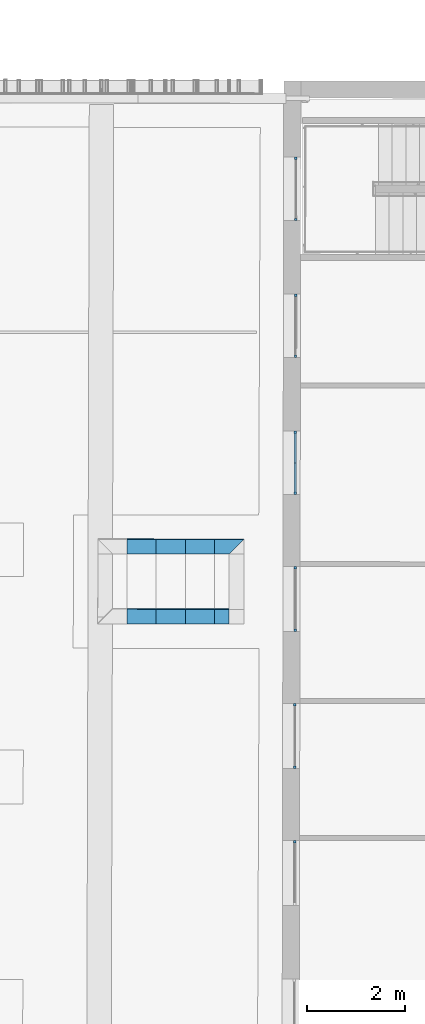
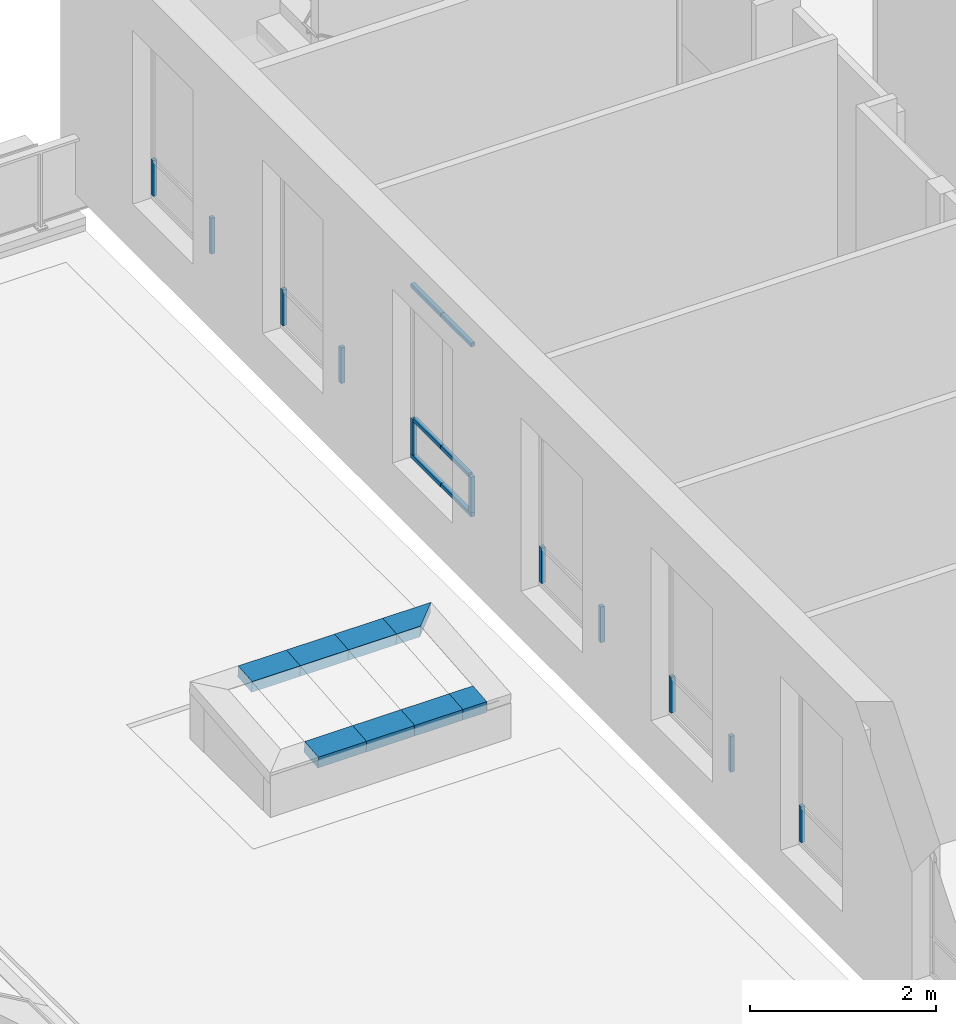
# One storey, part 30 of 101: 25 members, 7 elements without a shape of their own.
"""IFC2X3 building model written with IfcOpenShell, lengths in metres."""

from ifc_helpers import new_model, entity, si_unit, converted_unit, derived_unit, direction, frame, frame_2d, origin, origin_2d_with_axis, place, context, subcontext, project, spatial, polyline, rectangle, outline, extrude, source, transform, mapped, material, type_object, type_shapes, element, aggregate, save


model = new_model("IFC2X3")

# Units and contexts
model_context = context("Model", 3, precision=1e-05, world=origin(), true_north=direction((6.123233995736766e-17, 1.0)))
body_context = subcontext(model_context, "Body", "Model", "MODEL_VIEW")
ifc_project = project(units=[si_unit("LENGTHUNIT", "METRE"), si_unit("AREAUNIT", "SQUARE_METRE"), converted_unit("PLANEANGLEUNIT", "DEGREE", entity("IfcPlaneAngleMeasure", 0.017453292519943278), si_unit("PLANEANGLEUNIT", "RADIAN"), dimensions=[0, 0, 0, 0, 0, 0, 0]), derived_unit("THERMALTRANSMITTANCEUNIT", [(si_unit("MASSUNIT", "GRAM", prefix="KILO"), 1), (si_unit("THERMODYNAMICTEMPERATUREUNIT", "KELVIN"), -1), (si_unit("TIMEUNIT", "SECOND"), -3)])], contexts=[model_context])

# Site, building, storey
site_placement = place(None, frame((1253.6752467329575, 2072.143113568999, 91.49999999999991), z_axis=(0.0, 0.0, 1.0), x_axis=(0.7237211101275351, 0.6900925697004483, 0.0)))
site = spatial("IfcSite", under=ifc_project, at=site_placement, Name="Surface", CompositionType="ELEMENT")
building_placement = place(site_placement, origin())
building = spatial("IfcBuilding", under=site, at=building_placement, CompositionType="ELEMENT")
storey_placement = place(building_placement, origin())
storey = spatial("IfcBuildingStorey", under=building, at=storey_placement, Name="0- Rdc", CompositionType="ELEMENT", Elevation=-5.764692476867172e-13)

# Curtain wall, member
curtain_wall_type_1 = type_object("IfcCurtainWallType", Name="Mur-rideau:Menuiserie Ext 1F+1OB VERTIC", PredefinedType="NOTDEFINED")
curtain_wall_1_placement = place(storey_placement, origin())
curtain_wall_1 = element("IfcCurtainWall", 1, at=curtain_wall_1_placement, inside=storey, type_object=curtain_wall_type_1, Name="Mur-rideau:Menuiserie Ext 1F+1OB VERTIC", ObjectType="Mur-rideau:Menuiserie Ext 1F+1OB VERTIC")
ifc_material_1 = material(Name="OMD_Aluminium Men Ext")
member_type_1 = type_object("IfcMemberType", Name="Meneau rectangulaire:50x50", PredefinedType="MULLION", material=ifc_material_1)
shared_shape_1 = source(origin(), body_context, "Body", "SweptSolid", [
    extrude(rectangle(XDim=0.05, YDim=0.049999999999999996, at=origin_2d_with_axis()), frame((-0.025, 0.0, -0.4699999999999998), z_axis=(0.0, 0.0, 1.0), x_axis=(-1.0, 0.0, 0.0)), (0.0, 0.0, 1.0), 0.4699999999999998),
])
type_shapes(member_type_1, [shared_shape_1])
member_1_placement = place(curtain_wall_1_placement, frame((190.7317655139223, 2.1602019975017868, 0.6699999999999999), z_axis=(0.0, 0.0, -1.0), x_axis=(0.6913353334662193, 0.7225340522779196, 0.0)))
member_1 = element("IfcMember", 2, at=member_1_placement, type_object=member_type_1, material=ifc_material_1, Name="Meneau rectangulaire:50x50", ObjectType="Meneau rectangulaire:50x50", context=body_context, shape_type="MappedRepresentation", body=[
    mapped(shared_shape_1, transform((0.0, 0.0, 0.0), scale=1.0)),
])

curtain_wall_2_placement = place(storey_placement, origin())
curtain_wall_2 = element("IfcCurtainWall", 3, at=curtain_wall_2_placement, inside=storey, type_object=curtain_wall_type_1, Name="Mur-rideau:Menuiserie Ext 1F+1OB VERTIC", ObjectType="Mur-rideau:Menuiserie Ext 1F+1OB VERTIC")
member_2_placement = place(curtain_wall_2_placement, frame((188.79623681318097, 0.13732637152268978, 0.6699999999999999), z_axis=(0.0, 0.0, -1.0), x_axis=(0.6913353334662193, 0.7225340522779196, 0.0)))
member_2 = element("IfcMember", 4, at=member_2_placement, type_object=member_type_1, material=ifc_material_1, Name="Meneau rectangulaire:50x50", ObjectType="Meneau rectangulaire:50x50", context=body_context, shape_type="MappedRepresentation", body=[
    mapped(shared_shape_1, transform((0.0, 0.0, 0.0), scale=1.0)),
])

curtain_wall_3_placement = place(storey_placement, origin())
curtain_wall_3 = element("IfcCurtainWall", 5, at=curtain_wall_3_placement, inside=storey, type_object=curtain_wall_type_1, Name="Mur-rideau:Menuiserie Ext 1F+1OB VERTIC", ObjectType="Mur-rideau:Menuiserie Ext 1F+1OB VERTIC")
member_3_placement = place(curtain_wall_3_placement, frame((186.86049787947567, -1.8857689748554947, 0.6699999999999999), z_axis=(0.0, 0.0, -1.0), x_axis=(0.6913353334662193, 0.7225340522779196, 0.0)))
member_3 = element("IfcMember", 6, at=member_3_placement, type_object=member_type_1, material=ifc_material_1, Name="Meneau rectangulaire:50x50", ObjectType="Meneau rectangulaire:50x50", context=body_context, shape_type="MappedRepresentation", body=[
    mapped(shared_shape_1, transform((0.0, 0.0, 0.0), scale=1.0)),
])

curtain_wall_4_placement = place(storey_placement, origin())
curtain_wall_4 = element("IfcCurtainWall", 7, at=curtain_wall_4_placement, inside=storey, type_object=curtain_wall_type_1, Name="Mur-rideau:Menuiserie Ext 1F+1OB VERTIC", ObjectType="Mur-rideau:Menuiserie Ext 1F+1OB VERTIC")
member_4_placement = place(curtain_wall_4_placement, frame((184.9454626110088, -3.8872263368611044, 0.6699999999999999), z_axis=(0.0, 0.0, -1.0), x_axis=(0.6913353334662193, 0.7225340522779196, 0.0)))
member_4 = element("IfcMember", 8, at=member_4_placement, type_object=member_type_1, material=ifc_material_1, Name="Meneau rectangulaire:50x50", ObjectType="Meneau rectangulaire:50x50", context=body_context, shape_type="MappedRepresentation", body=[
    mapped(shared_shape_1, transform((0.0, 0.0, 0.0), scale=1.0)),
])

curtain_wall_5_placement = place(storey_placement, origin())
curtain_wall_5 = element("IfcCurtainWall", 9, at=curtain_wall_5_placement, inside=storey, type_object=curtain_wall_type_1, Name="Mur-rideau:Menuiserie Ext 1F+1OB VERTIC", ObjectType="Mur-rideau:Menuiserie Ext 1F+1OB VERTIC")
member_5_placement = place(curtain_wall_5_placement, frame((183.00972344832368, -5.910321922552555, 0.6699999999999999), z_axis=(0.0, 0.0, -1.0), x_axis=(0.6913353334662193, 0.7225340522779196, 0.0)))
member_5 = element("IfcMember", 10, at=member_5_placement, type_object=member_type_1, material=ifc_material_1, Name="Meneau rectangulaire:50x50", ObjectType="Meneau rectangulaire:50x50", context=body_context, shape_type="MappedRepresentation", body=[
    mapped(shared_shape_1, transform((0.0, 0.0, 0.0), scale=1.0)),
])

curtain_wall_6_placement = place(storey_placement, origin())
curtain_wall_6 = element("IfcCurtainWall", 11, at=curtain_wall_6_placement, inside=storey, type_object=curtain_wall_type_1, Name="Mur-rideau:Menuiserie Ext 1F+1OB VERTIC", ObjectType="Mur-rideau:Menuiserie Ext 1F+1OB VERTIC")
member_6_placement = place(curtain_wall_6_placement, frame((181.07398428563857, -7.933417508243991, 0.6699999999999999), z_axis=(0.0, 0.0, -1.0), x_axis=(0.6913353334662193, 0.7225340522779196, 0.0)))
member_6 = element("IfcMember", 12, at=member_6_placement, type_object=member_type_1, material=ifc_material_1, Name="Meneau rectangulaire:50x50", ObjectType="Meneau rectangulaire:50x50", context=body_context, shape_type="MappedRepresentation", body=[
    mapped(shared_shape_1, transform((0.0, 0.0, 0.0), scale=1.0)),
])
aggregate(curtain_wall_6, [member_6])

# Member
member_type_2 = type_object("IfcMemberType", Name="Meneau rectangulaire:50x50", PredefinedType="MULLION", material=ifc_material_1)
shared_shape_2 = source(origin(), body_context, "Body", "SweptSolid", [
    extrude(rectangle(XDim=0.05, YDim=0.049999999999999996, at=origin_2d_with_axis()), frame((-0.025, 0.0, -0.4699999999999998), z_axis=(0.0, 0.0, 1.0), x_axis=(-1.0, 0.0, 0.0)), (0.0, 0.0, 1.0), 0.4699999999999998),
])
type_shapes(member_type_2, [shared_shape_2])
member_7_placement = place(curtain_wall_1_placement, frame((189.8332398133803, 1.2211274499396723, 1.14), z_axis=(0.0, 0.0, 1.0), x_axis=(-0.6913353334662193, -0.7225340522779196, 0.0)))
member_7 = element("IfcMember", 13, at=member_7_placement, type_object=member_type_2, material=ifc_material_1, Name="Meneau rectangulaire:50x50", ObjectType="Meneau rectangulaire:50x50", context=body_context, shape_type="MappedRepresentation", body=[
    mapped(shared_shape_2, transform((0.0, 0.0, 0.0), scale=1.0)),
])

aggregate(curtain_wall_1, [member_1, member_7])

member_8_placement = place(curtain_wall_2_placement, frame((187.89771111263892, -0.8017481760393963, 1.14), z_axis=(0.0, 0.0, 1.0), x_axis=(-0.6913353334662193, -0.7225340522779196, 0.0)))
member_8 = element("IfcMember", 14, at=member_8_placement, type_object=member_type_2, material=ifc_material_1, Name="Meneau rectangulaire:50x50", ObjectType="Meneau rectangulaire:50x50", context=body_context, shape_type="MappedRepresentation", body=[
    mapped(shared_shape_2, transform((0.0, 0.0, 0.0), scale=1.0)),
])

aggregate(curtain_wall_2, [member_2, member_8])

member_9_placement = place(curtain_wall_3_placement, frame((185.9619721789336, -2.8248435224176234, 1.14), z_axis=(0.0, 0.0, 1.0), x_axis=(-0.6913353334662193, -0.7225340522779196, 0.0)))
member_9 = element("IfcMember", 15, at=member_9_placement, type_object=member_type_2, material=ifc_material_1, Name="Meneau rectangulaire:50x50", ObjectType="Meneau rectangulaire:50x50", context=body_context, shape_type="MappedRepresentation", body=[
    mapped(shared_shape_2, transform((0.0, 0.0, 0.0), scale=1.0)),
])

member_10_placement = place(curtain_wall_4_placement, frame((184.02623324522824, -4.847938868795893, 1.14), z_axis=(0.0, 0.0, 1.0), x_axis=(-0.6913353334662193, -0.7225340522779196, 0.0)))
member_10 = element("IfcMember", 16, at=member_10_placement, type_object=member_type_2, material=ifc_material_1, Name="Meneau rectangulaire:50x50", ObjectType="Meneau rectangulaire:50x50", context=body_context, shape_type="MappedRepresentation", body=[
    mapped(shared_shape_2, transform((0.0, 0.0, 0.0), scale=1.0)),
])

aggregate(curtain_wall_4, [member_4, member_10])

member_11_placement = place(curtain_wall_5_placement, frame((182.0904943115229, -6.871034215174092, 1.14), z_axis=(0.0, 0.0, 1.0), x_axis=(-0.6913353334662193, -0.7225340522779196, 0.0)))
member_11 = element("IfcMember", 17, at=member_11_placement, type_object=member_type_2, material=ifc_material_1, Name="Meneau rectangulaire:50x50", ObjectType="Meneau rectangulaire:50x50", context=body_context, shape_type="MappedRepresentation", body=[
    mapped(shared_shape_2, transform((0.0, 0.0, 0.0), scale=1.0)),
])

aggregate(curtain_wall_5, [member_5, member_11])

member_type_3 = type_object("IfcMemberType", Name="Meneau rectangulaire:50x50", PredefinedType="MULLION", material=ifc_material_1)
shared_shape_3 = source(origin(), body_context, "Body", "SweptSolid", [
    extrude(rectangle(XDim=0.05, YDim=0.049999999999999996, at=origin_2d_with_axis()), frame((-0.025, 0.0, -0.6498479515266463), z_axis=(0.0, 0.0, 1.0), x_axis=(-1.0, 0.0, 0.0)), (0.0, 0.0, 1.0), 0.6498479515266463),
])
type_shapes(member_type_3, [shared_shape_3])
member_12_placement = place(curtain_wall_3_placement, frame((186.8604978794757, -1.8857689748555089, 2.8999999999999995), z_axis=(0.6913353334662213, 0.7225340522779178, 0.0), x_axis=(0.0, 0.0, 1.0)))
member_12 = element("IfcMember", 18, at=member_12_placement, type_object=member_type_3, material=ifc_material_1, Name="Meneau rectangulaire:50x50", ObjectType="Meneau rectangulaire:50x50", context=body_context, shape_type="MappedRepresentation", body=[
    mapped(shared_shape_3, transform((0.0, 0.0, 0.0), scale=1.0)),
])

member_type_4 = type_object("IfcMemberType", Name="Meneau rectangulaire:50x50", PredefinedType="MULLION", material=ifc_material_1)
shared_shape_4 = source(origin(), body_context, "Body", "SweptSolid", [
    extrude(rectangle(XDim=0.05, YDim=0.05, at=origin_2d_with_axis()), frame((-0.025, 0.0, -0.6498479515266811), z_axis=(0.0, 0.0, 1.0), x_axis=(-1.0, 0.0, 0.0)), (0.0, 0.0, 1.0), 0.6498479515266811),
])
type_shapes(member_type_4, [shared_shape_4])
member_13_placement = place(curtain_wall_3_placement, frame((185.96197217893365, -2.8248435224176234, 0.62), z_axis=(-0.6913353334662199, -0.7225340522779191, 0.0), x_axis=(0.0, 0.0, -1.0)))
member_13 = element("IfcMember", 19, at=member_13_placement, type_object=member_type_4, material=ifc_material_1, Name="Meneau rectangulaire:50x50", ObjectType="Meneau rectangulaire:50x50", context=body_context, shape_type="MappedRepresentation", body=[
    mapped(shared_shape_4, transform((0.0, 0.0, 0.0), scale=1.0)),
])

member_type_5 = type_object("IfcMemberType", Name="Meneau rectangulaire:50x50", PredefinedType="MULLION", material=ifc_material_1)
shared_shape_5 = source(origin(), body_context, "Body", "SweptSolid", [
    extrude(rectangle(XDim=0.05, YDim=0.05, at=frame_2d((0.0, -1.734723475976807e-18), x_axis=(1.0, 0.0))), frame((0.0, 0.0, -0.5998479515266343), z_axis=(0.0, 0.0, 1.0), x_axis=(-1.0, 0.0, 0.0)), (0.0, 0.0, 1.0), 0.5998479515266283),
])
type_shapes(member_type_5, [shared_shape_5])
member_14_placement = place(curtain_wall_3_placement, frame((186.41123502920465, -2.3553062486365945, 1.14), z_axis=(0.6913353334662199, 0.7225340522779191, 0.0), x_axis=(0.0, 0.0, 1.0)))
member_14 = element("IfcMember", 20, at=member_14_placement, type_object=member_type_5, material=ifc_material_1, Name="Meneau rectangulaire:50x50", ObjectType="Meneau rectangulaire:50x50", context=body_context, shape_type="MappedRepresentation", body=[
    mapped(shared_shape_5, transform((0.0, 0.0, 0.0), scale=1.0)),
])

member_type_6 = type_object("IfcMemberType", Name="Meneau rectangulaire:50x50", PredefinedType="MULLION", material=ifc_material_1)
shared_shape_6 = source(origin(), body_context, "Body", "SweptSolid", [
    extrude(rectangle(XDim=0.05, YDim=0.05, at=origin_2d_with_axis()), frame((-0.025, 0.0, -0.6498479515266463), z_axis=(0.0, 0.0, 1.0), x_axis=(-1.0, 0.0, 0.0)), (0.0, 0.0, 1.0), 0.6498479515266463),
])
type_shapes(member_type_6, [shared_shape_6])
member_15_placement = place(curtain_wall_3_placement, frame((186.41123502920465, -2.3553062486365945, 2.8999999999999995), z_axis=(0.6913353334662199, 0.7225340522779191, 0.0), x_axis=(0.0, 0.0, 1.0)))
member_15 = element("IfcMember", 21, at=member_15_placement, type_object=member_type_6, material=ifc_material_1, Name="Meneau rectangulaire:50x50", ObjectType="Meneau rectangulaire:50x50", context=body_context, shape_type="MappedRepresentation", body=[
    mapped(shared_shape_6, transform((0.0, 0.0, 0.0), scale=1.0)),
])

member_type_7 = type_object("IfcMemberType", Name="Meneau rectangulaire:50x50", PredefinedType="MULLION", material=ifc_material_1)
shared_shape_7 = source(origin(), body_context, "Body", "SweptSolid", [
    extrude(rectangle(XDim=0.05, YDim=0.05, at=origin_2d_with_axis()), frame((-0.025, 0.0, -0.6498479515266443), z_axis=(0.0, 0.0, 1.0), x_axis=(-1.0, 0.0, 0.0)), (0.0, 0.0, 1.0), 0.64984795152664),
])
type_shapes(member_type_7, [shared_shape_7])
member_16_placement = place(curtain_wall_3_placement, frame((186.41123502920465, -2.3553062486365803, 0.62), z_axis=(-0.6913353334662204, -0.7225340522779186, 0.0), x_axis=(0.0, 0.0, -1.0)))
member_16 = element("IfcMember", 22, at=member_16_placement, type_object=member_type_7, material=ifc_material_1, Name="Meneau rectangulaire:50x50", ObjectType="Meneau rectangulaire:50x50", context=body_context, shape_type="MappedRepresentation", body=[
    mapped(shared_shape_7, transform((0.0, 0.0, 0.0), scale=1.0)),
])

member_type_8 = type_object("IfcMemberType", Name="Meneau rectangulaire:50x50", PredefinedType="MULLION", material=ifc_material_1)
shared_shape_8 = source(origin(), body_context, "Body", "SweptSolid", [
    extrude(rectangle(XDim=0.05, YDim=0.05, at=origin_2d_with_axis()), frame((0.0, 0.0, -0.5998479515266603), z_axis=(0.0, 0.0, 1.0), x_axis=(-1.0, 0.0, 0.0)), (0.0, 0.0, 1.0), 0.5998479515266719),
])
type_shapes(member_type_8, [shared_shape_8])
member_17_placement = place(curtain_wall_3_placement, frame((186.82593111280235, -1.9218956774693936, 1.14), z_axis=(0.6913353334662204, 0.7225340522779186, 0.0), x_axis=(0.0, 0.0, 1.0)))
member_17 = element("IfcMember", 23, at=member_17_placement, type_object=member_type_8, material=ifc_material_1, Name="Meneau rectangulaire:50x50", ObjectType="Meneau rectangulaire:50x50", context=body_context, shape_type="MappedRepresentation", body=[
    mapped(shared_shape_8, transform((0.0, 0.0, 0.0), scale=1.0)),
])

aggregate(curtain_wall_3, [member_12, member_13, member_3, member_9, member_14, member_15, member_16, member_17])

# Roof, members
curtain_wall_type_2 = type_object("IfcCurtainWallType", Name="Vitres inclinées:Toit en verre 1 m x 2 m", PredefinedType="NOTDEFINED")
roof_placement = place(storey_placement, origin())
roof = element("IfcRoof", 24, at=roof_placement, inside=storey, type_object=curtain_wall_type_2, Name="Vitres inclinées:Toit en verre 1 m x 2 m", ObjectType="Vitres inclinées:Toit en verre 1 m x 2 m", ShapeType="NOTDEFINED")
ifc_material_2 = material(Name="OMD_Aluminium blanc")
member_type_9 = type_object("IfcMemberType", Name="Meneau rectangulaire:22x300", PredefinedType="MULLION", material=ifc_material_2)
shared_shape_9 = source(origin(), body_context, "Body", "SweptSolid", [
    extrude(rectangle(XDim=0.29999999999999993, YDim=0.14999999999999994, at=origin_2d_with_axis()), frame((-0.14999999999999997, 0.06500000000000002, -0.2972801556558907), z_axis=(0.0, 0.0, 1.0), x_axis=(-1.0, 0.0, 0.0)), (0.0, 0.0, 1.0), 0.29728015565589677),
])
type_shapes(member_type_9, [shared_shape_9])
member_18_placement = place(roof_placement, frame((183.15786764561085, -3.805014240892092, 0.25979977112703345), z_axis=(0.7228702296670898, -0.690983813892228, 0.0), x_axis=(-0.6883544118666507, -0.7201194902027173, -0.08715574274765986)))
member_18 = element("IfcMember", 25, at=member_18_placement, type_object=member_type_9, material=ifc_material_2, Name="Meneau rectangulaire:22x300", ObjectType="Meneau rectangulaire:22x300", context=body_context, shape_type="MappedRepresentation", body=[
    mapped(shared_shape_9, transform((0.0, 0.0, 0.0), scale=1.0)),
])
member_type_10 = type_object("IfcMemberType", Name="Meneau rectangulaire:22x300", PredefinedType="MULLION", material=ifc_material_2)
shared_shape_10 = source(origin(), body_context, "Body", "SweptSolid", [
    extrude(rectangle(XDim=0.29999999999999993, YDim=0.15000000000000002, at=origin_2d_with_axis()), frame((-0.14999999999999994, 0.06499999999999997, -0.5972801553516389), z_axis=(0.0, 0.0, 1.0), x_axis=(-1.0, 0.0, 0.0)), (0.0, 0.0, 1.0), 0.5972801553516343),
])
type_shapes(member_type_10, [shared_shape_10])
member_19_placement = place(roof_placement, frame((182.07946058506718, -2.774176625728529, 0.259799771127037), z_axis=(0.7228702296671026, -0.6909838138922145, 0.0), x_axis=(-0.6883544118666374, -0.7201194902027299, -0.08715574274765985)))
member_19 = element("IfcMember", 26, at=member_19_placement, type_object=member_type_10, material=ifc_material_2, Name="Meneau rectangulaire:22x300", ObjectType="Meneau rectangulaire:22x300", context=body_context, shape_type="MappedRepresentation", body=[
    mapped(shared_shape_10, transform((0.0, 0.0, 0.0), scale=1.0)),
])
member_20_placement = place(roof_placement, frame((182.51121662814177, -3.1868875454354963, 0.2597997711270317), z_axis=(0.7228702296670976, -0.6909838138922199, 0.0), x_axis=(-0.6883544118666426, -0.720119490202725, -0.08715574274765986)))
member_20 = element("IfcMember", 27, at=member_20_placement, type_object=member_type_10, material=ifc_material_2, Name="Meneau rectangulaire:22x300", ObjectType="Meneau rectangulaire:22x300", context=body_context, shape_type="MappedRepresentation", body=[
    mapped(shared_shape_10, transform((0.0, 0.0, 0.0), scale=1.0)),
])
member_21_placement = place(roof_placement, frame((182.9429726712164, -3.5995984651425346, 0.25979977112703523), z_axis=(0.7228702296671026, -0.6909838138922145, 0.0), x_axis=(-0.6883544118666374, -0.7201194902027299, -0.08715574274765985)))
member_21 = element("IfcMember", 28, at=member_21_placement, type_object=member_type_10, material=ifc_material_2, Name="Meneau rectangulaire:22x300", ObjectType="Meneau rectangulaire:22x300", context=body_context, shape_type="MappedRepresentation", body=[
    mapped(shared_shape_10, transform((0.0, 0.0, 0.0), scale=1.0)),
])
member_type_11 = type_object("IfcMemberType", Name="Meneau rectangulaire:22x300", PredefinedType="MULLION", material=ifc_material_2)
shared_shape_11 = source(origin(), body_context, "Body", "SweptSolid", [
    extrude(rectangle(XDim=0.29999999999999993, YDim=0.14999999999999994, at=frame_2d((-1.3877787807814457e-17, 0.0), x_axis=(1.0, 0.0))), frame((-0.14999999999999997, 0.06500000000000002, -0.5972801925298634), z_axis=(0.0, 0.0, 1.0), x_axis=(-1.0, 0.0, 0.0)), (0.0, 0.0, 1.0), 0.597280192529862),
])
type_shapes(member_type_11, [shared_shape_11])
member_22_placement = place(roof_placement, frame((182.8415912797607, -1.1124853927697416, 0.41096330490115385), z_axis=(-0.7226273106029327, 0.6912378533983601, 0.0), x_axis=(0.6886074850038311, 0.7198774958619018, 0.08715573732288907)))
member_22 = element("IfcMember", 29, at=member_22_placement, type_object=member_type_11, material=ifc_material_2, Name="Meneau rectangulaire:22x300", ObjectType="Meneau rectangulaire:22x300", context=body_context, shape_type="MappedRepresentation", body=[
    mapped(shared_shape_11, transform((0.0, 0.0, 0.0), scale=1.0)),
])
member_type_12 = type_object("IfcMemberType", Name="Meneau rectangulaire:22x300", PredefinedType="MULLION", material=ifc_material_2)
shared_shape_12 = source(origin(), body_context, "Body", "SweptSolid", [
    extrude(rectangle(XDim=0.29999999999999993, YDim=0.14999999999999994, at=frame_2d((-1.3877787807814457e-17, 0.0), x_axis=(1.0, 0.0))), frame((-0.14999999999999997, 0.06500000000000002, -0.5972801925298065), z_axis=(0.0, 0.0, 1.0), x_axis=(-1.0, 0.0, 0.0)), (0.0, 0.0, 1.0), 0.5972801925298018),
])
type_shapes(member_type_12, [shared_shape_12])
member_23_placement = place(roof_placement, frame((183.27320225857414, -1.5253480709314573, 0.4109449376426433), z_axis=(-0.7226273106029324, 0.6912378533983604, 0.0), x_axis=(0.6886074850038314, 0.7198774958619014, 0.08715573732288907)))
member_23 = element("IfcMember", 30, at=member_23_placement, type_object=member_type_12, material=ifc_material_2, Name="Meneau rectangulaire:22x300", ObjectType="Meneau rectangulaire:22x300", context=body_context, shape_type="MappedRepresentation", body=[
    mapped(shared_shape_12, transform((0.0, 0.0, 0.0), scale=1.0)),
])
member_24_placement = place(roof_placement, frame((183.70481323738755, -1.9382107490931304, 0.41092657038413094), z_axis=(-0.7226273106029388, 0.6912378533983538, 0.0), x_axis=(0.6886074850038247, 0.7198774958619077, 0.08715573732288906)))
member_24 = element("IfcMember", 31, at=member_24_placement, type_object=member_type_12, material=ifc_material_2, Name="Meneau rectangulaire:22x300", ObjectType="Meneau rectangulaire:22x300", context=body_context, shape_type="MappedRepresentation", body=[
    mapped(shared_shape_12, transform((0.0, 0.0, 0.0), scale=1.0)),
])
member_type_13 = type_object("IfcMemberType", Name="Meneau rectangulaire:22x300", PredefinedType="MULLION", material=ifc_material_2)
shared_shape_13 = source(origin(), body_context, "Body", "SweptSolid", [
    extrude(outline(polyline([(-0.2236665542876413, -0.14999999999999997), (0.37361363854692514, -0.15), (0.07371947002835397, 0.14999999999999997), (-0.22366655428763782, 0.14999999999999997), (-0.2236665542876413, -0.14999999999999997)])), frame((-0.14999999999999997, -0.009999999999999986, -0.223666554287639), z_axis=(0.0, 1.0, 0.0), x_axis=(0.0, 0.0, -1.0)), (0.0, 0.0, 1.0), 0.14999999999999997),
])
type_shapes(member_type_13, [shared_shape_13])
member_25_placement = place(roof_placement, frame((184.136424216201, -2.351073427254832, 0.4109082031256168), z_axis=(-0.7226273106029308, 0.691237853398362, 0.0), x_axis=(0.688607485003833, 0.7198774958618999, 0.08715573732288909)))
member_25 = element("IfcMember", 32, at=member_25_placement, type_object=member_type_13, material=ifc_material_2, Name="Meneau rectangulaire:22x300", ObjectType="Meneau rectangulaire:22x300", context=body_context, shape_type="MappedRepresentation", body=[
    mapped(shared_shape_13, transform((0.0, 0.0, 0.0), scale=1.0)),
])
aggregate(roof, [member_18, member_19, member_20, member_21, member_22, member_23, member_24, member_25])

save(model, "model.ifc")
